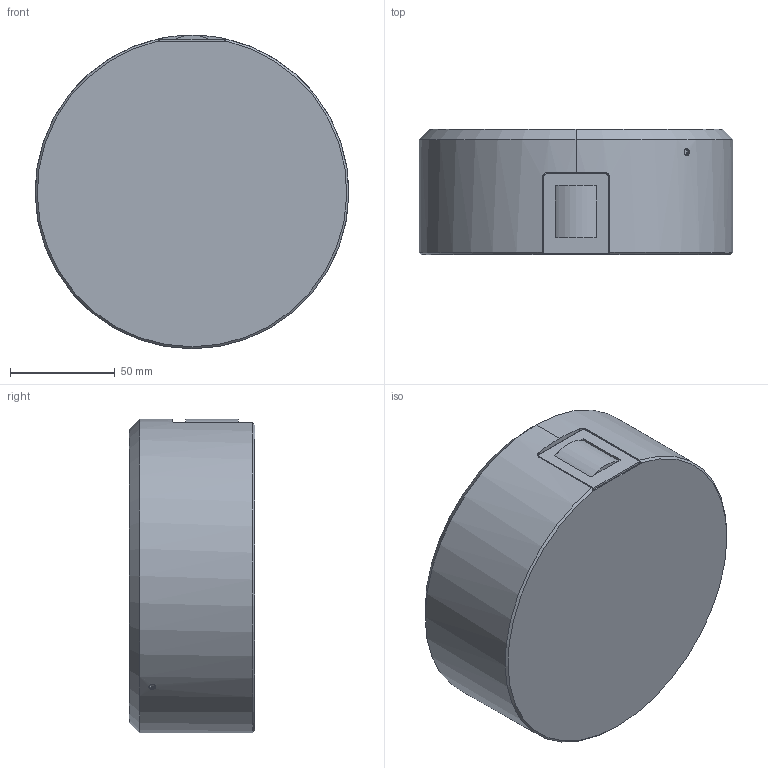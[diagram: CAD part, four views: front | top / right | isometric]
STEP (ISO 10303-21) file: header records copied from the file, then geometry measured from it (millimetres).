
FILE_DESCRIPTION (( 'STEP AP214' ), '1' );
FILE_NAME ('ﾑﾄﾑ RAD-CRUX-A-V1_LIB.STEP', '2023-02-27T22:11:27', ( '' ), ( '' ), 'SwSTEP 2.0', 'SolidWorks 2020', '' );
FILE_SCHEMA (( 'AUTOMOTIVE_DESIGN' ));
Length unit declared in the file: millimetre
Products named in the file (1): ﾑﾄﾑ RAD-CRUX-A-V1_LIB
Bounding box: 150 x 60 x 150 mm (x, y, z)
Volume: 1052893 mm3; surface area: 62247.3 mm2
Topology: 1 solids, 1 shells, 96 faces, 243 edges, 160 vertices
Faces by surface type: plane 66, cylinder 19, bspline 8, cone 3
Entity records: 3086 total; most frequent: CARTESIAN_POINT 804, ORIENTED_EDGE 486, DIRECTION 418, EDGE_CURVE 243, LINE 174, VECTOR 174, VERTEX_POINT 160, AXIS2_PLACEMENT_3D 122
